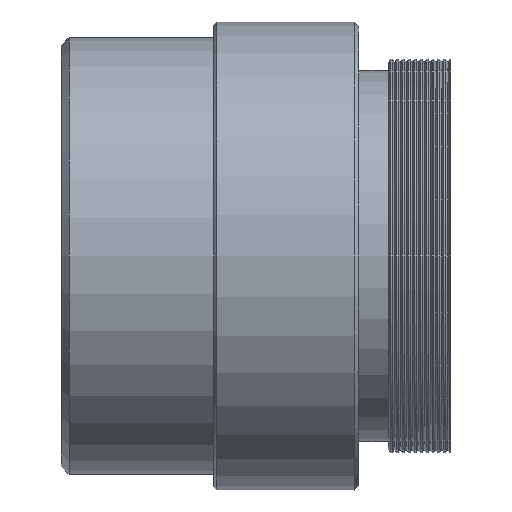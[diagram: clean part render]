
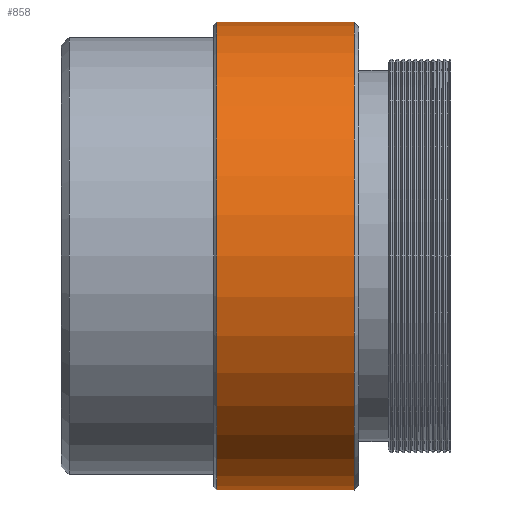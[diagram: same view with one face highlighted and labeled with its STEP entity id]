
A CAD part, front view. The second image highlights one B-rep face of the part: STEP entity #858.
In plain terms, the highlighted cylindrical face has radius 15 mm (diameter 30 mm), a full revolution.
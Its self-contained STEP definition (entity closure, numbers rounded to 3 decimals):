
#85=FACE_BOUND('',#259,.T.);
#159=FACE_OUTER_BOUND('',#258,.T.);
#258=EDGE_LOOP('',(#628));
#259=EDGE_LOOP('',(#629));
#382=CIRCLE('',#964,15.);
#383=CIRCLE('',#965,15.);
#456=VERTEX_POINT('',#1441);
#457=VERTEX_POINT('',#1443);
#530=EDGE_CURVE('',#456,#456,#382,.T.);
#531=EDGE_CURVE('',#457,#457,#383,.T.);
#628=ORIENTED_EDGE('',*,*,#530,.F.);
#629=ORIENTED_EDGE('',*,*,#531,.T.);
#738=CYLINDRICAL_SURFACE('',#963,15.);
#858=ADVANCED_FACE('',(#159,#85),#738,.T.);
#963=AXIS2_PLACEMENT_3D('',#1440,#1164,#1165);
#964=AXIS2_PLACEMENT_3D('',#1442,#1166,#1167);
#965=AXIS2_PLACEMENT_3D('',#1444,#1168,#1169);
#1164=DIRECTION('center_axis',(-1.,0.,0.));
#1165=DIRECTION('ref_axis',(0.,-1.,0.));
#1166=DIRECTION('center_axis',(-1.,0.,0.));
#1167=DIRECTION('ref_axis',(0.,-1.,0.));
#1168=DIRECTION('center_axis',(-1.,0.,0.));
#1169=DIRECTION('ref_axis',(0.,-1.,0.));
#1440=CARTESIAN_POINT('Origin',(-12.524,0.,
0.));
#1441=CARTESIAN_POINT('',(-9.1,15.,0.));
#1442=CARTESIAN_POINT('Origin',(-9.1,0.,
0.));
#1443=CARTESIAN_POINT('',(-0.3,-15.,0.));
#1444=CARTESIAN_POINT('Origin',(-0.3,0.,
0.));
